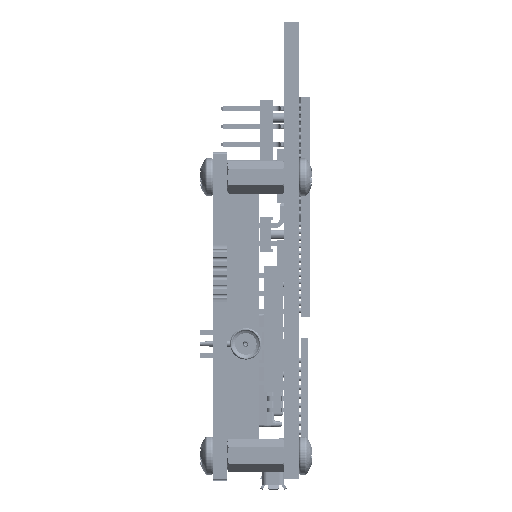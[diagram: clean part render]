
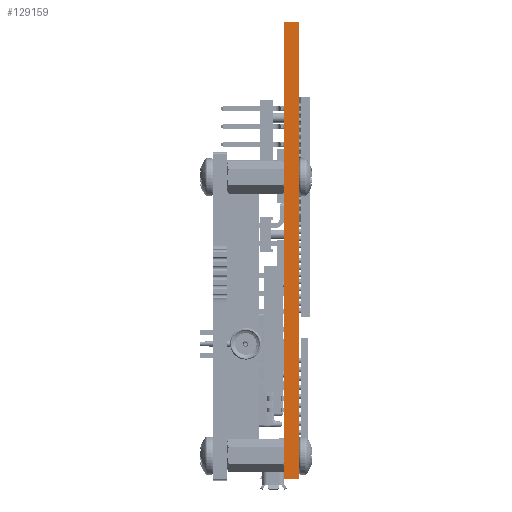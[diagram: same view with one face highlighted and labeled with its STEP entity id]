
A CAD part, left-side view. The second image highlights one B-rep face of the part: STEP entity #129159.
In plain terms, the highlighted planar face has unit normal (-1, 0, 0) as drawn and (1, 0, 0) by its records, which use the part's own axes.
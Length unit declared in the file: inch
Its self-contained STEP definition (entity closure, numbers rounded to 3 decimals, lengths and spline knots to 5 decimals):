
#6686 = LINE ( 'NONE', #131378, #143777 ) ;
#9334 = CARTESIAN_POINT ( 'NONE',  ( 4.00425, -0.00016, 0.063 ) ) ;
#13543 = VECTOR ( 'NONE', #154456, 39.37008 ) ;
#25128 = DIRECTION ( 'NONE',  ( 0., 1., 0. ) ) ;
#27617 = CARTESIAN_POINT ( 'NONE',  ( 4.00425, 1.99984, 0. ) ) ;
#28160 = EDGE_CURVE ( 'NONE', #113800, #46174, #6686, .T. ) ;
#38667 = FACE_OUTER_BOUND ( 'NONE', #126220, .T. ) ;
#40975 = DIRECTION ( 'NONE',  ( 0., 0., -1. ) ) ;
#40981 = ORIENTED_EDGE ( 'NONE', *, *, #62764, .F. ) ;
#46174 = VERTEX_POINT ( 'NONE', #27617 ) ;
#48871 = LINE ( 'NONE', #9334, #13543 ) ;
#52869 = VERTEX_POINT ( 'NONE', #153699 ) ;
#60940 = EDGE_CURVE ( 'NONE', #52869, #113800, #94879, .T. ) ;
#62764 = EDGE_CURVE ( 'NONE', #68182, #46174, #108111, .T. ) ;
#65659 = DIRECTION ( 'NONE',  ( -1., 0., 0. ) ) ;
#68182 = VERTEX_POINT ( 'NONE', #169366 ) ;
#73268 = CARTESIAN_POINT ( 'NONE',  ( 4.00425, -0.00016, 0. ) ) ;
#80519 = DIRECTION ( 'NONE',  ( 0., 0., -1. ) ) ;
#82940 = EDGE_CURVE ( 'NONE', #52869, #68182, #48871, .T. ) ;
#86511 = VECTOR ( 'NONE', #80519, 39.37008 ) ;
#94879 = LINE ( 'NONE', #107235, #86511 ) ;
#104863 = ORIENTED_EDGE ( 'NONE', *, *, #60940, .T. ) ;
#105193 = CARTESIAN_POINT ( 'NONE',  ( 4.00425, -0.00016, 0.063 ) ) ;
#106754 = AXIS2_PLACEMENT_3D ( 'NONE', #105193, #65659, #158516 ) ;
#107235 = CARTESIAN_POINT ( 'NONE',  ( 4.00425, -0.00016, 0.063 ) ) ;
#108111 = LINE ( 'NONE', #159973, #139222 ) ;
#113800 = VERTEX_POINT ( 'NONE', #73268 ) ;
#120149 = ORIENTED_EDGE ( 'NONE', *, *, #28160, .T. ) ;
#126220 = EDGE_LOOP ( 'NONE', ( #120149, #40981, #150795, #104863 ) ) ;
#129159 = ADVANCED_FACE ( 'NONE', ( #38667 ), #145248, .F. ) ;
#131378 = CARTESIAN_POINT ( 'NONE',  ( 4.00425, -0.00016, 0. ) ) ;
#139222 = VECTOR ( 'NONE', #40975, 39.37008 ) ;
#143777 = VECTOR ( 'NONE', #25128, 39.37008 ) ;
#145248 = PLANE ( 'NONE',  #106754 ) ;
#150795 = ORIENTED_EDGE ( 'NONE', *, *, #82940, .F. ) ;
#153699 = CARTESIAN_POINT ( 'NONE',  ( 4.00425, -0.00016, 0.063 ) ) ;
#154456 = DIRECTION ( 'NONE',  ( 0., 1., 0. ) ) ;
#158516 = DIRECTION ( 'NONE',  ( 0., -1., 0. ) ) ;
#159973 = CARTESIAN_POINT ( 'NONE',  ( 4.00425, 1.99984, 0.063 ) ) ;
#169366 = CARTESIAN_POINT ( 'NONE',  ( 4.00425, 1.99984, 0.063 ) ) ;
